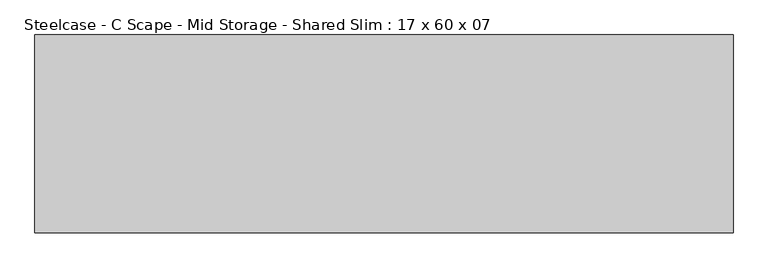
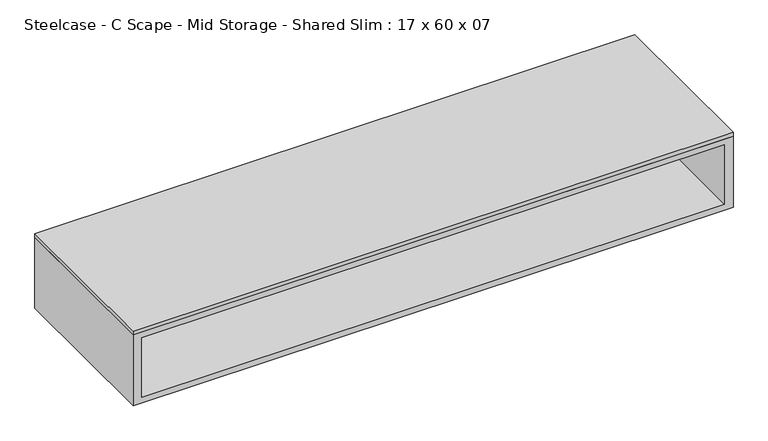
"""IFC4 building model written with IfcOpenShell, lengths in millimetres: furniture geometry, Steelcase - C Scape - Mid Storage - Shared Slim : 17 x 60 x 07."""

from ifc_helpers import new_model, si_unit, frame, origin, place, context, project, spatial, polyline, outline, extrude, source, transform, mapped, element, save


def steelcase_c_scape_mid_storage_shared_slim_17_x_60_x_07_af4ca070(model_context):
    return source(origin(), model_context, "Body", "SweptSolid", [
        extrude(outline(polyline([(1524.0, 215.9), (1524.0, -215.9), (0.0, -215.9), (0.0, 215.9), (1524.0, 215.9)])), frame((0.0, 0.0, 1028.7), z_axis=(0.0, 0.0, 1.0), x_axis=(1.0, 0.0, 0.0)), (0.0, 0.0, 1.0), 10.16),
        extrude(outline(polyline([(1501.902, 3.1751841), (1501.902, -3.1744283), (21.9711633, -3.1744283), (21.9711633, 3.1751841), (1501.902, 3.1751841)])), frame((0.0, 0.0, 853.4399855), z_axis=(0.0, 0.0, 1.0), x_axis=(1.0, 0.0, 0.0)), (0.0, 0.0, 1.0), 160.0200145),
        extrude(outline(polyline([(1028.7, 1524.0), (1028.7, 0.0), (838.2, 0.0), (838.2, 1524.0), (1028.7, 1524.0)]), holes=[polyline([(1013.46, 1501.902), (853.4399855, 1501.902), (853.4399855, 21.9711633), (1013.46, 21.9711633), (1013.46, 1501.902)])]), frame((0.0, -215.9, 0.0), z_axis=(0.0, 1.0, 0.0), x_axis=(0.0, 0.0, 1.0)), (0.0, 0.0, 1.0), 431.8),
    ])


if __name__ == "__main__":
    model = new_model("IFC4")
    model_context = context("Model", 3, world=origin())
    ifc_project = project(units=[si_unit("LENGTHUNIT", "METRE", prefix="MILLI")], contexts=[model_context])
    site = spatial("IfcSite", under=ifc_project)
    building = spatial("IfcBuilding", under=site)
    placement = place(None, origin())
    steelcase_c_scape_mid_storage_shared_slim_17_x_60_x_07_shape = steelcase_c_scape_mid_storage_shared_slim_17_x_60_x_07_af4ca070(model_context)
    element("IfcFurniture", 1, ObjectType="Steelcase - C Scape - Mid Storage - Shared Slim : 17 x 60 x 07", at=placement, inside=building, context=model_context, shape_type="MappedRepresentation", body=[
        mapped(steelcase_c_scape_mid_storage_shared_slim_17_x_60_x_07_shape, transform((0.0, 0.0, 0.0), x_axis=(1.0, 0.0, 0.0), y_axis=(0.0, 1.0, 0.0), z_axis=(0.0, 0.0, 1.0))),
    ])
    save(model, "model.ifc")
